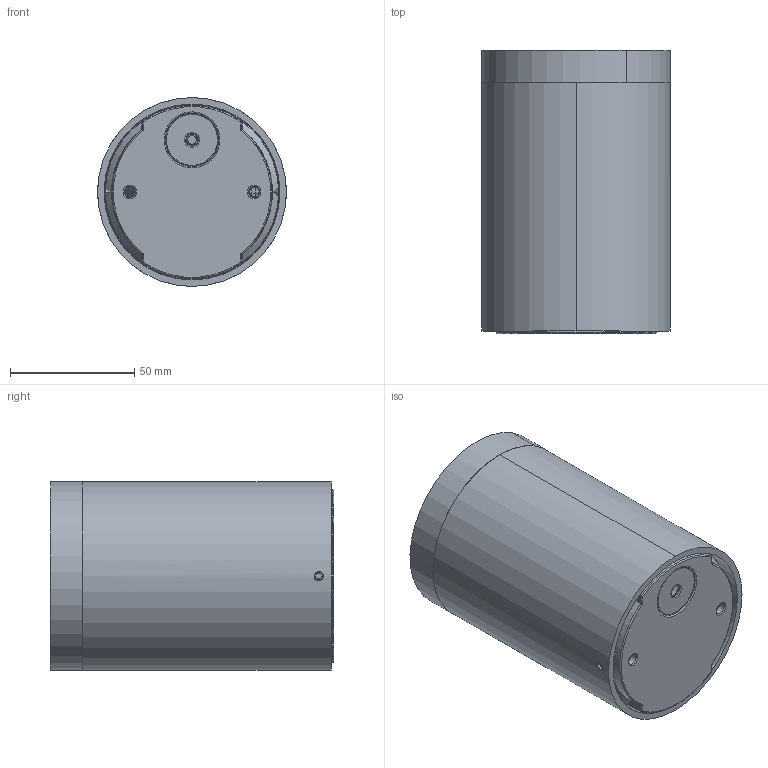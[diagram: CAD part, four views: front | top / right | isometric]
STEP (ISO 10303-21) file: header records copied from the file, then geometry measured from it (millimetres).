
FILE_DESCRIPTION(/* description */ (''),/* implementation_level */ '2;1');
FILE_NAME(/* name */ 'puk_76_ceiling.step',/* time_stamp */ '2025-02-20T17:23:06+01:00',/* author */ ('RenataManzini'),/* organization */ (''),/* preprocessor_version */ 'ST-DEVELOPER v20',/* originating_system */ 'AutoCAD Mechanical',/* authorisation */ '');
FILE_SCHEMA (('AUTOMOTIVE_DESIGN { 1 0 10303 214 3 1 1 }'));
Length unit declared in the file: millimetre
Products named in the file (12): Product; FSC-0051·ÀË®È¦; M4x5È«ÑÀÄÚÁù½Ç¼âÎ
²ÂÝË¿£¨²»Ðâ¸Ö£
©; ²£Á§-ÄÚ°¼Ê½; µõÏß×é¹Ì¶¨Ö
§¼Ü; M3X6Ô²Í·ÄÚÁù½Ç
ÂÝË¿; FSC-0051Îü¶¥¸Ç; P1Ô¤Âñ¼þÁ¬·ÀË
®È¦-R01; IP67·ÀË®Èû(¦Õ5-10); Ç°ÕÖ-ÄÚ°¼; FK-3021µÆÌå; LENS066EO_v0.01.09.7-2015Sep23-R01
Assembly tree (13 placements, depth 2):
  Product
    M4x5È«ÑÀÄÚÁù½Ç¼âÎ
²ÂÝË¿£¨²»Ðâ¸Ö£
©  x2
    FSC-0051·ÀË®È¦
    ²£Á§-ÄÚ°¼Ê½
    µõÏß×é¹Ì¶¨Ö
§¼Ü
    M3X6Ô²Í·ÄÚÁù½Ç
ÂÝË¿
    FSC-0051Îü¶¥¸Ç
    P1Ô¤Âñ¼þÁ¬·ÀË
®È¦-R01  x2
    IP67·ÀË®Èû(¦Õ5-10)
    Ç°ÕÖ-ÄÚ°¼
    FK-3021µÆÌå
    LENS066EO_v0.01.09.7-2015Sep23-R01
Bounding box: 76 x 114 x 76 mm (x, y, z)
Volume: 184164.1 mm3; surface area: 105996.3 mm2
Topology: 13 solids, 13 shells, 1756 faces, 4382 edges, 2666 vertices
Faces by surface type: sphere 704, bspline 408, torus 294, cylinder 148, plane 113, cone 89
Entity records: 63681 total; most frequent: CARTESIAN_POINT 22134, DIRECTION 9887, ORIENTED_EDGE 8544, AXIS2_PLACEMENT_3D 4783, EDGE_CURVE 4272, CIRCLE 3412, VERTEX_POINT 2611, EDGE_LOOP 1783
